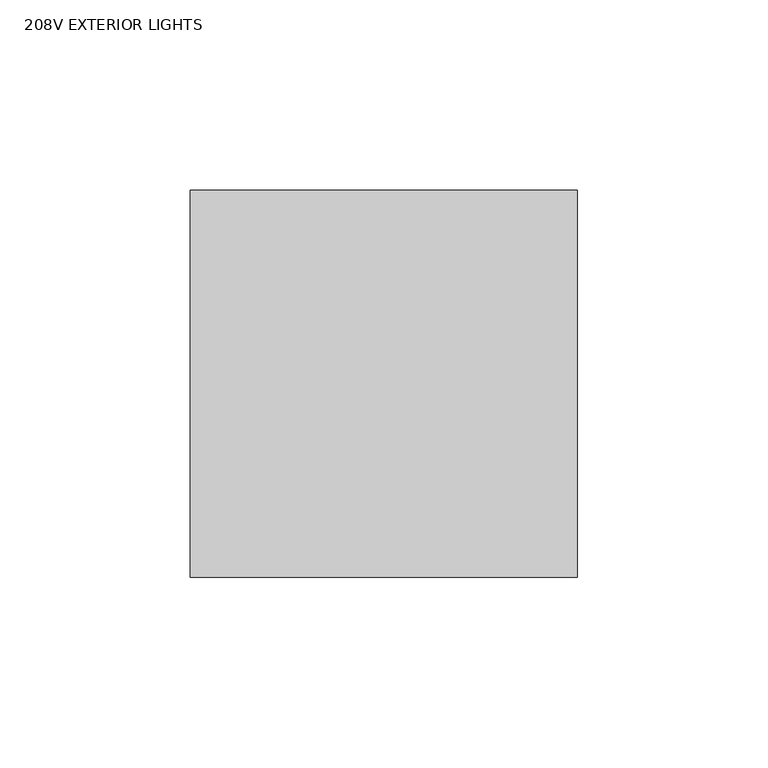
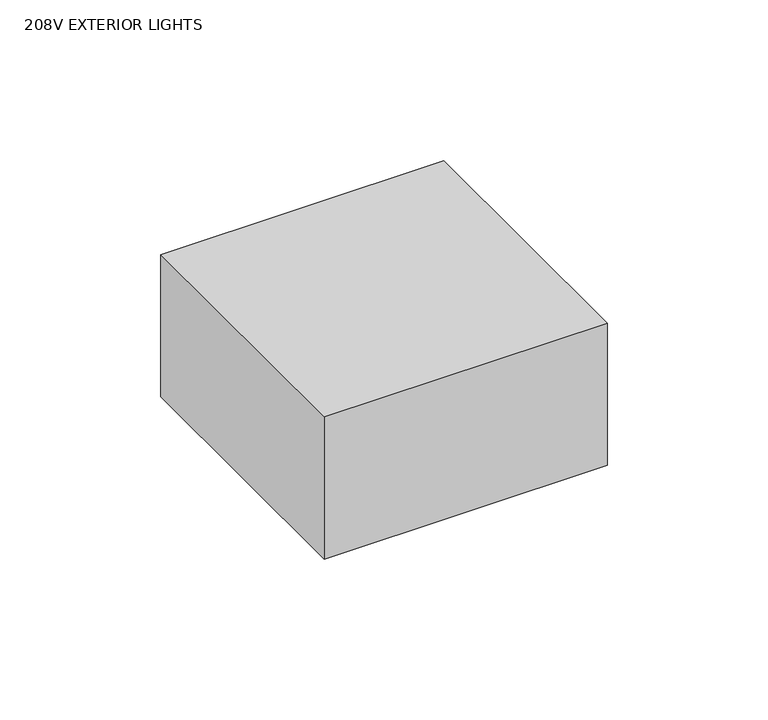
"""IFC4 building model written with IfcOpenShell, lengths in millimetres: proxy geometry, OMAHA - Junction Boxes - USACE : 208V EXTERIOR LIGHTS."""

from ifc_helpers import new_model, si_unit, origin, origin_with_axes, place, context, project, spatial, polyline, outline, extrude, source, transform, mapped, element, save


def proxy_208v_exterior_lights_222d7609(model_context):
    return source(origin(), model_context, "Body", "SweptSolid", [
        extrude(outline(polyline([(50.8, 50.8), (50.8, -50.8), (-50.8, -50.8), (-50.8, 50.8), (50.8, 50.8)])), origin_with_axes(), (0.0, 0.0, 1.0), 53.975),
    ])


if __name__ == "__main__":
    model = new_model("IFC4")
    model_context = context("Model", 3, world=origin())
    ifc_project = project(units=[si_unit("LENGTHUNIT", "METRE", prefix="MILLI")], contexts=[model_context])
    site = spatial("IfcSite", under=ifc_project)
    building = spatial("IfcBuilding", under=site)
    placement = place(None, origin())
    proxy_208v_exterior_lights_shape = proxy_208v_exterior_lights_222d7609(model_context)
    element("IfcBuildingElementProxy", 1, Name="OMAHA - Junction Boxes - USACE : 208V EXTERIOR LIGHTS", ObjectType="OMAHA - Junction Boxes - USACE : 208V EXTERIOR LIGHTS", at=placement, inside=building, context=model_context, shape_type="MappedRepresentation", body=[
        mapped(proxy_208v_exterior_lights_shape, transform((0.0, 0.0, 0.0), x_axis=(1.0, 0.0, 0.0), y_axis=(0.0, 1.0, 0.0), z_axis=(0.0, 0.0, 1.0))),
    ])
    save(model, "model.ifc")
